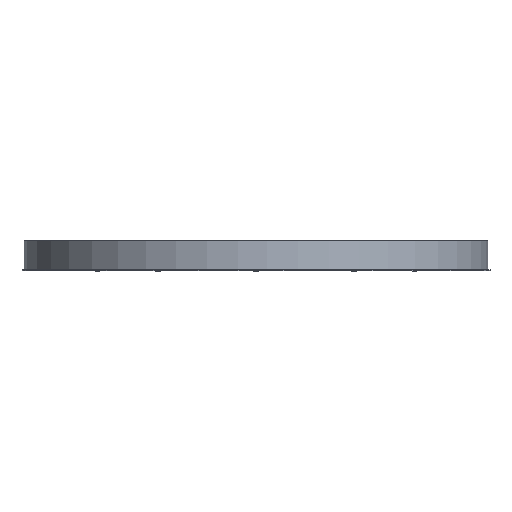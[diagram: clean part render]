
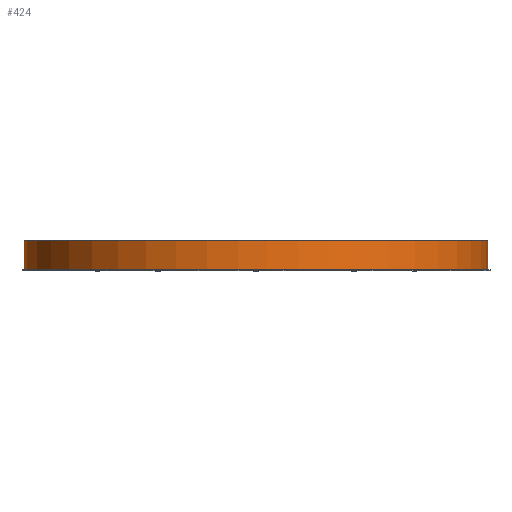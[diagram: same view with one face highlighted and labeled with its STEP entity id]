
A CAD part, front view. The second image highlights one B-rep face of the part: STEP entity #424.
In plain terms, the highlighted cylindrical face has radius 604 mm (diameter 1208 mm), a full revolution.
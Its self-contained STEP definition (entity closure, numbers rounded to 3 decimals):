
#424=ADVANCED_FACE('',(#732),#4265,.T.);
#732=FACE_OUTER_BOUND('',#1110,.T.);
#1110=EDGE_LOOP('',(#2419,#2420,#2421,#2422));
#2419=ORIENTED_EDGE('',*,*,#3178,.F.);
#2420=ORIENTED_EDGE('',*,*,#3177,.T.);
#2421=ORIENTED_EDGE('',*,*,#3178,.T.);
#2422=ORIENTED_EDGE('',*,*,#3167,.F.);
#3167=EDGE_CURVE('',#3927,#3927,#4687,.T.);
#3177=EDGE_CURVE('',#3941,#3941,#4693,.T.);
#3178=EDGE_CURVE('',#3941,#3927,#3499,.T.);
#3499=B_SPLINE_CURVE_WITH_KNOTS('',1,(#18790,#18791),.UNSPECIFIED.,.F.,
 .F.,(2,2),(212.,265.),.UNSPECIFIED.);
#3927=VERTEX_POINT('',#18658);
#3941=VERTEX_POINT('',#18672);
#4265=CYLINDRICAL_SURFACE('',#5050,604.);
#4687=(
BOUNDED_CURVE()
B_SPLINE_CURVE(2,(#18719,#18720,#18721,#18722,#18723,#18724,#18725,#18726,
#18727),.UNSPECIFIED.,.T.,.F.)
B_SPLINE_CURVE_WITH_KNOTS((3,2,2,2,3),(0.,953.13,1906.26,
2859.389,3812.519),.UNSPECIFIED.)
CURVE()
GEOMETRIC_REPRESENTATION_ITEM()
RATIONAL_B_SPLINE_CURVE((1.,0.707,1.,0.707,1.,0.707,
1.,0.707,1.))
REPRESENTATION_ITEM('')
);
#4693=(
BOUNDED_CURVE()
B_SPLINE_CURVE(2,(#18781,#18782,#18783,#18784,#18785,#18786,#18787,#18788,
#18789),.UNSPECIFIED.,.T.,.F.)
B_SPLINE_CURVE_WITH_KNOTS((3,2,2,2,3),(0.,953.13,1906.26,
2859.389,3812.519),.UNSPECIFIED.)
CURVE()
GEOMETRIC_REPRESENTATION_ITEM()
RATIONAL_B_SPLINE_CURVE((1.,0.707,1.,0.707,1.,0.707,
1.,0.707,1.))
REPRESENTATION_ITEM('')
);
#5050=AXIS2_PLACEMENT_3D('',#17945,#5290,$);
#5290=DIRECTION('',(0.,0.,1.));
#17945=CARTESIAN_POINT('',(0.,0.,40.5));
#18658=CARTESIAN_POINT('',(-604.,0.,78.));
#18672=CARTESIAN_POINT('',(-604.,0.,3.));
#18719=CARTESIAN_POINT('',(-604.,0.,78.));
#18720=CARTESIAN_POINT('',(-604.,-604.,78.));
#18721=CARTESIAN_POINT('',(0.,-604.,78.));
#18722=CARTESIAN_POINT('',(604.,-604.,78.));
#18723=CARTESIAN_POINT('',(604.,0.,78.));
#18724=CARTESIAN_POINT('',(604.,604.,78.));
#18725=CARTESIAN_POINT('',(0.,604.,78.));
#18726=CARTESIAN_POINT('',(-604.,604.,78.));
#18727=CARTESIAN_POINT('',(-604.,0.,78.));
#18781=CARTESIAN_POINT('',(-604.,0.,3.));
#18782=CARTESIAN_POINT('',(-604.,-604.,3.));
#18783=CARTESIAN_POINT('',(0.,-604.,3.));
#18784=CARTESIAN_POINT('',(604.,-604.,3.));
#18785=CARTESIAN_POINT('',(604.,0.,3.));
#18786=CARTESIAN_POINT('',(604.,604.,3.));
#18787=CARTESIAN_POINT('',(0.,604.,3.));
#18788=CARTESIAN_POINT('',(-604.,604.,3.));
#18789=CARTESIAN_POINT('',(-604.,0.,3.));
#18790=CARTESIAN_POINT('',(-604.,0.,3.));
#18791=CARTESIAN_POINT('',(-604.,0.,78.));
